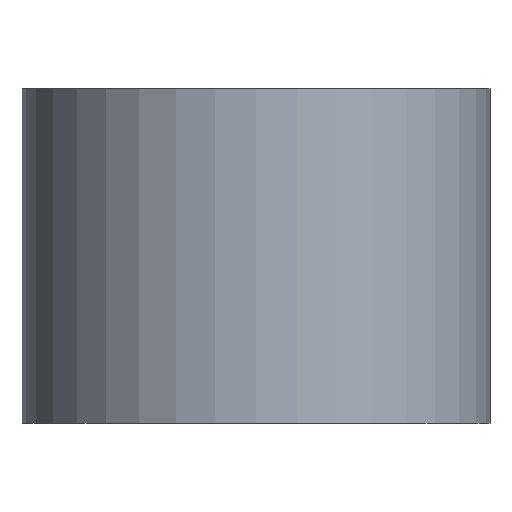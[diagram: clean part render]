
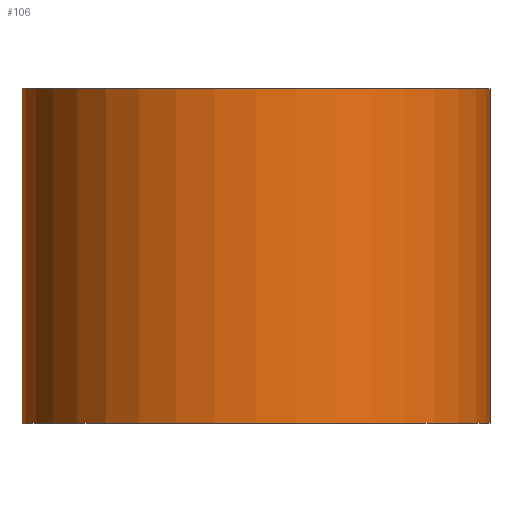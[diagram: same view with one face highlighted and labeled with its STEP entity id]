
A CAD part, front view. The second image highlights one B-rep face of the part: STEP entity #106.
In plain terms, the highlighted cylindrical face has radius 14 mm (diameter 28 mm), a partial arc.
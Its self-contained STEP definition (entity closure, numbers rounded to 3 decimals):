
#106=ADVANCED_FACE('',(#115),#111,.T.);
#111=CYLINDRICAL_SURFACE('',#196,14.);
#115=FACE_OUTER_BOUND('',#121,.T.);
#121=EDGE_LOOP('',(#145,#146,#147,#148));
#129=CIRCLE('',#192,14.);
#131=CIRCLE('',#195,14.);
#145=ORIENTED_EDGE('',*,*,#173,.T.);
#146=ORIENTED_EDGE('',*,*,#174,.F.);
#147=ORIENTED_EDGE('',*,*,#175,.F.);
#148=ORIENTED_EDGE('',*,*,#171,.T.);
#161=VERTEX_POINT('',#248);
#162=VERTEX_POINT('',#249);
#163=VERTEX_POINT('',#253);
#164=VERTEX_POINT('',#255);
#171=EDGE_CURVE('',#161,#162,#129,.T.);
#173=EDGE_CURVE('',#162,#163,#179,.T.);
#174=EDGE_CURVE('',#164,#163,#131,.T.);
#175=EDGE_CURVE('',#161,#164,#180,.T.);
#179=LINE('',#252,#183);
#180=LINE('',#256,#184);
#183=VECTOR('',#222,1.);
#184=VECTOR('',#225,1.);
#192=AXIS2_PLACEMENT_3D('',#247,#216,#217);
#195=AXIS2_PLACEMENT_3D('',#254,#223,#224);
#196=AXIS2_PLACEMENT_3D('',#257,#226,#227);
#216=DIRECTION('',(0.,0.,1.));
#217=DIRECTION('',(0.,1.,0.));
#222=DIRECTION('',(0.,0.,1.));
#223=DIRECTION('',(0.,0.,1.));
#224=DIRECTION('',(0.,1.,0.));
#225=DIRECTION('',(0.,0.,1.));
#226=DIRECTION('',(0.,0.,1.));
#227=DIRECTION('',(0.,-1.,0.));
#247=CARTESIAN_POINT('',(0.,0.,-20.));
#248=CARTESIAN_POINT('',(-14.,0.,-20.));
#249=CARTESIAN_POINT('',(14.,0.,-20.));
#252=CARTESIAN_POINT('',(14.,0.,0.));
#253=CARTESIAN_POINT('',(14.,0.,0.));
#254=CARTESIAN_POINT('',(0.,0.,0.));
#255=CARTESIAN_POINT('',(-14.,0.,0.));
#256=CARTESIAN_POINT('',(-14.,0.,0.));
#257=CARTESIAN_POINT('',(0.,0.,-20.));
